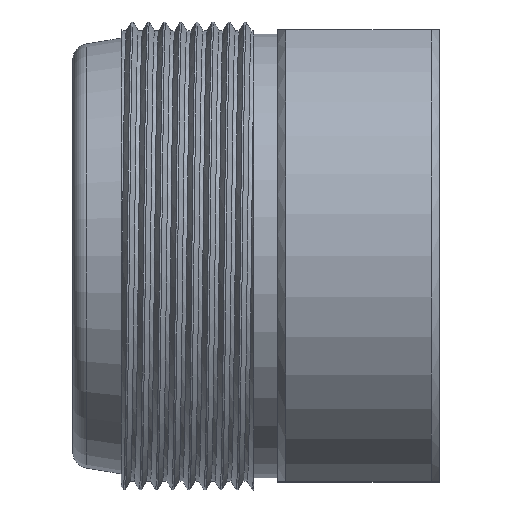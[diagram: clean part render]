
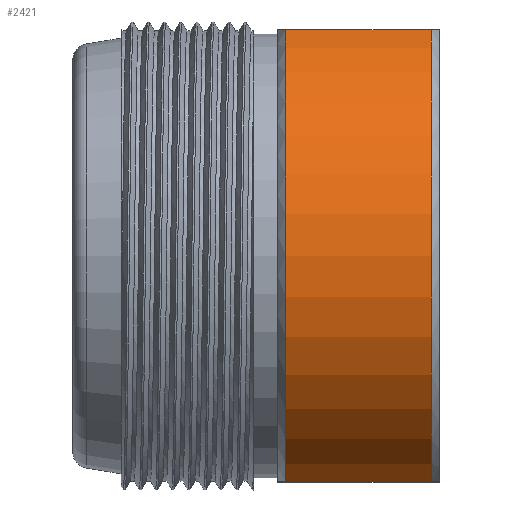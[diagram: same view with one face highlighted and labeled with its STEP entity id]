
A CAD part, top view. The second image highlights one B-rep face of the part: STEP entity #2421.
In plain terms, the highlighted cylindrical face has radius 15 mm (diameter 30 mm), a partial arc.
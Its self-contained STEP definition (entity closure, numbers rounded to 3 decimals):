
#71 = VECTOR ( 'NONE', #3618, 1000. ) ;
#80 = DIRECTION ( 'NONE',  ( 1., 0., 0. ) ) ;
#196 = DIRECTION ( 'NONE',  ( 0., 0., -1. ) ) ;
#207 = CARTESIAN_POINT ( 'NONE',  ( -0.5, 14., 5.385 ) ) ;
#215 = CARTESIAN_POINT ( 'NONE',  ( 0., 14., 5.385 ) ) ;
#368 = VECTOR ( 'NONE', #851, 1000. ) ;
#422 = CIRCLE ( 'NONE', #3477, 15. ) ;
#429 = DIRECTION ( 'NONE',  ( 0., 0., -1. ) ) ;
#497 = VERTEX_POINT ( 'NONE', #1728 ) ;
#670 = VERTEX_POINT ( 'NONE', #2310 ) ;
#691 = CARTESIAN_POINT ( 'NONE',  ( -0.5, 0., 0. ) ) ;
#807 = EDGE_CURVE ( 'NONE', #670, #2922, #422, .T. ) ;
#851 = DIRECTION ( 'NONE',  ( -1., 0., 0. ) ) ;
#1021 = DIRECTION ( 'NONE',  ( 1., 0., 0. ) ) ;
#1115 = ORIENTED_EDGE ( 'NONE', *, *, #807, .T. ) ;
#1134 = ORIENTED_EDGE ( 'NONE', *, *, #2709, .F. ) ;
#1300 = CARTESIAN_POINT ( 'NONE',  ( 0., 0., 0. ) ) ;
#1503 = AXIS2_PLACEMENT_3D ( 'NONE', #1300, #1021, #196 ) ;
#1614 = ORIENTED_EDGE ( 'NONE', *, *, #3368, .T. ) ;
#1723 = CARTESIAN_POINT ( 'NONE',  ( -9.5, 0., 0. ) ) ;
#1728 = CARTESIAN_POINT ( 'NONE',  ( -9.5, 14., 5.385 ) ) ;
#1800 = CIRCLE ( 'NONE', #2285, 15. ) ;
#2188 = ORIENTED_EDGE ( 'NONE', *, *, #2528, .F. ) ;
#2282 = CARTESIAN_POINT ( 'NONE',  ( 0., -14., 5.385 ) ) ;
#2285 = AXIS2_PLACEMENT_3D ( 'NONE', #1723, #80, #2614 ) ;
#2310 = CARTESIAN_POINT ( 'NONE',  ( -0.5, -14., 5.385 ) ) ;
#2405 = DIRECTION ( 'NONE',  ( -1., 0., 0. ) ) ;
#2421 = ADVANCED_FACE ( 'NONE', ( #3042 ), #2770, .T. ) ;
#2486 = VERTEX_POINT ( 'NONE', #3024 ) ;
#2489 = LINE ( 'NONE', #215, #71 ) ;
#2528 = EDGE_CURVE ( 'NONE', #497, #2922, #2489, .T. ) ;
#2614 = DIRECTION ( 'NONE',  ( 0., 0., 1. ) ) ;
#2709 = EDGE_CURVE ( 'NONE', #670, #2486, #3476, .T. ) ;
#2712 = EDGE_LOOP ( 'NONE', ( #1134, #1115, #2188, #1614 ) ) ;
#2770 = CYLINDRICAL_SURFACE ( 'NONE', #1503, 15. ) ;
#2922 = VERTEX_POINT ( 'NONE', #207 ) ;
#3024 = CARTESIAN_POINT ( 'NONE',  ( -9.5, -14., 5.385 ) ) ;
#3042 = FACE_OUTER_BOUND ( 'NONE', #2712, .T. ) ;
#3368 = EDGE_CURVE ( 'NONE', #497, #2486, #1800, .T. ) ;
#3476 = LINE ( 'NONE', #2282, #368 ) ;
#3477 = AXIS2_PLACEMENT_3D ( 'NONE', #691, #2405, #429 ) ;
#3618 = DIRECTION ( 'NONE',  ( 1., 0., 0. ) ) ;
